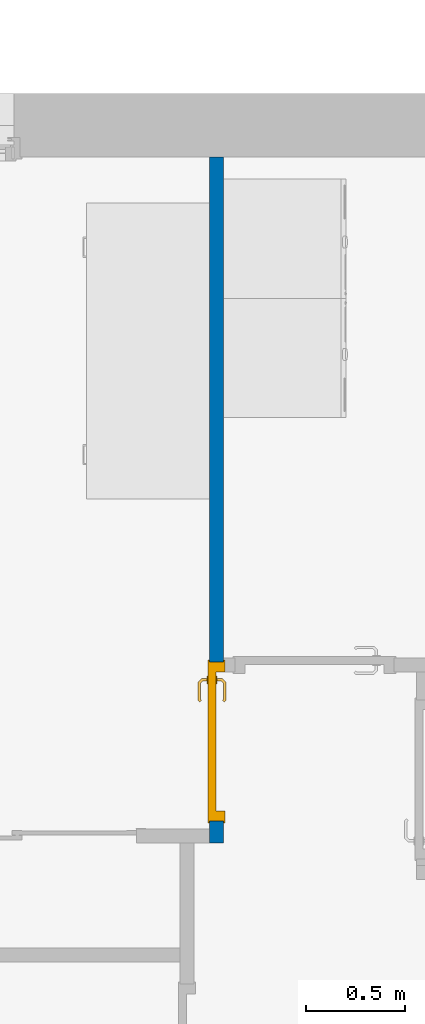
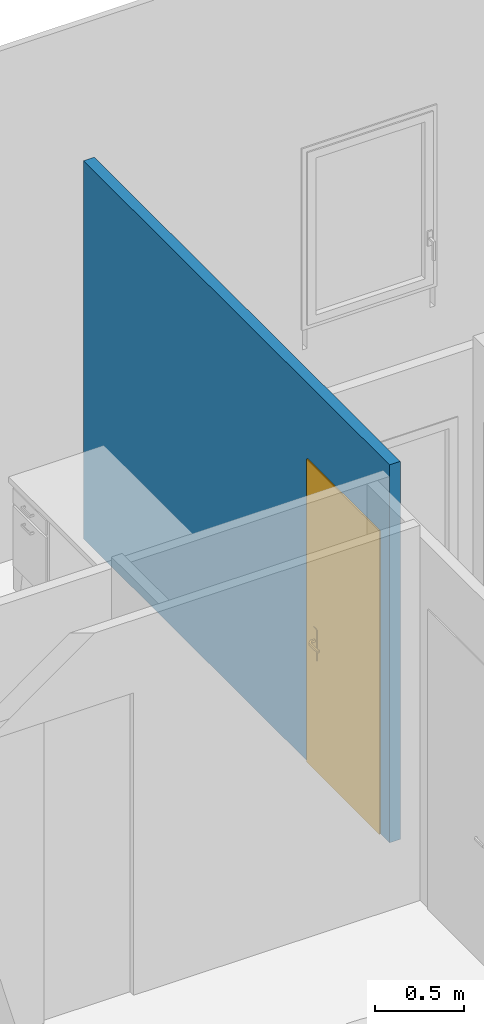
# One storey, part 18 of 61: 1 door, 1 wall, 1 opening.
"""IFC2X3 building model written with IfcOpenShell, lengths in metres."""

from ifc_helpers import new_model, entity, si_unit, converted_unit, derived_unit, direction, frame, frame_2d, origin, place, context, subcontext, project, spatial, rectangle, extrude, faceted_brep, source, transform, mapped, material, material_list, layer, layer_set, layer_usage, type_object, type_shapes, element, fill, save


model = new_model("IFC2X3")

# Units and contexts
model_context = context("Model", 3, precision=1e-05, world=origin(), true_north=direction((6.12303176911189e-17, 1.0)))
body_context = subcontext(model_context, "Body", "Model", "MODEL_VIEW")
ifc_project = project(units=[si_unit("LENGTHUNIT", "METRE"), si_unit("AREAUNIT", "SQUARE_METRE"), si_unit("VOLUMEUNIT", "CUBIC_METRE"), converted_unit("PLANEANGLEUNIT", "DEGREE", entity("IfcRatioMeasure", 0.0174532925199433), si_unit("PLANEANGLEUNIT", "RADIAN"), dimensions=[0, 0, 0, 0, 0, 0, 0]), si_unit("MASSUNIT", "GRAM", prefix="KILO"), derived_unit("MASSDENSITYUNIT", [(si_unit("MASSUNIT", "GRAM", prefix="KILO"), 1), (si_unit("LENGTHUNIT", "METRE"), -3)]), si_unit("TIMEUNIT", "SECOND"), si_unit("FREQUENCYUNIT", "HERTZ"), si_unit("THERMODYNAMICTEMPERATUREUNIT", "DEGREE_CELSIUS"), derived_unit("THERMALTRANSMITTANCEUNIT", [(si_unit("MASSUNIT", "GRAM", prefix="KILO"), 1), (si_unit("THERMODYNAMICTEMPERATUREUNIT", "KELVIN"), -1), (si_unit("TIMEUNIT", "SECOND"), -3)]), derived_unit("VOLUMETRICFLOWRATEUNIT", [(si_unit("LENGTHUNIT", "METRE"), 3), (si_unit("TIMEUNIT", "SECOND"), -1)]), si_unit("ELECTRICCURRENTUNIT", "AMPERE"), si_unit("ELECTRICVOLTAGEUNIT", "VOLT"), si_unit("POWERUNIT", "WATT"), si_unit("FORCEUNIT", "NEWTON", prefix="KILO"), si_unit("ILLUMINANCEUNIT", "LUX"), si_unit("LUMINOUSFLUXUNIT", "LUMEN"), si_unit("LUMINOUSINTENSITYUNIT", "CANDELA"), derived_unit("USERDEFINED", [(si_unit("MASSUNIT", "GRAM", prefix="KILO"), -1), (si_unit("LENGTHUNIT", "METRE"), -2), (si_unit("TIMEUNIT", "SECOND"), 3), (si_unit("LUMINOUSFLUXUNIT", "LUMEN"), 1)]), derived_unit("LINEARVELOCITYUNIT", [(si_unit("LENGTHUNIT", "METRE"), 1), (si_unit("TIMEUNIT", "SECOND"), -1)]), si_unit("PRESSUREUNIT", "PASCAL"), derived_unit("USERDEFINED", [(si_unit("LENGTHUNIT", "METRE"), -2), (si_unit("MASSUNIT", "GRAM", prefix="KILO"), 1), (si_unit("TIMEUNIT", "SECOND"), -2)])], contexts=[model_context])

# Site, building, storey
site_placement = place(None, origin())
site = spatial("IfcSite", under=ifc_project, at=site_placement, Name="Surface", CompositionType="ELEMENT")
building_placement = place(site_placement, origin())
building = spatial("IfcBuilding", under=site, at=building_placement, CompositionType="ELEMENT")
storey_placement = place(building_placement, frame((0.0, 0.0, 2.82)))
storey = spatial("IfcBuildingStorey", under=building, at=storey_placement, Name="ETAGE", CompositionType="ELEMENT", Elevation=2.82)

# Wall, opening, door
ifc_material_1 = material(Name="Peinture - Blanc")
ifc_layer = layer(ifc_material_1, 0.07)
ifc_layer_set = layer_set([ifc_layer], Name="Mur de base:Int.  Platre 70 mm en blanc")
ifc_layer_usage = layer_usage(ifc_layer_set, "AXIS2", "POSITIVE", -0.035)
wall_type = type_object("IfcWallType", Name="Mur de base:Int.  Platre 70 mm en blanc", PredefinedType="STANDARD", material=ifc_layer_set)
wall_placement = place(storey_placement, frame((65.027509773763, 88.1077566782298, 0.0), z_axis=(0.0, 0.0, 1.0), x_axis=(0.0, -1.0, 0.0)))
wall = element("IfcWallStandardCase", 1, at=wall_placement, inside=storey, type_object=wall_type, material=ifc_layer_usage, Name="Mur de base:Int.  Platre 70 mm en blanc", ObjectType="Mur de base:Int.  Platre 70 mm en blanc", context=body_context, shape_type="SweptSolid", body=[
    extrude(rectangle(XDim=3.45000000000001, YDim=0.0700000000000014, at=frame_2d((1.72500000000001, 1.63757896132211e-15), x_axis=(-1.0, 0.0))), origin(), (0.0, 0.0, 1.0), 2.6),
])
opening_placement = place(wall_placement, frame((3.34000000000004, 0.0350000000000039, 0.0)))
opening = element("IfcOpeningElement", 2, at=opening_placement, cuts=wall, Name="FR_Simple (R):73 x 204 - (70):1", ObjectType="Opening", context=body_context, shape_type="SweptSolid", body=[
    extrude(rectangle(XDim=2.075, YDim=0.799999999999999, at=frame_2d((1.0375, 0.400000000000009), x_axis=(1.0, 0.0))), frame((0.0, 0.0, 0.0), z_axis=(0.0, -1.0, 0.0), x_axis=(0.0, 0.0, 1.0)), (0.0, 0.0, 1.0), 0.07),
])
ifc_material_2 = material(Name="Poignée Porte")
ifc_material_3 = material(Name="Dormants Portes")
ifc_material_4 = material(Name="Panneaux Portes")
ifc_material_list_1 = material_list([ifc_material_2, ifc_material_3, ifc_material_4])
ifc_material_list_2 = material_list([ifc_material_2, ifc_material_3, ifc_material_4])
door_style = type_object("IfcDoorStyle", Name="73 x 204 - (70)", ConstructionType="NOTDEFINED", OperationType="SINGLE_SWING_LEFT", ParameterTakesPrecedence=False, Sizeable=False, material=ifc_material_list_2)
shared_shape = source(origin(), body_context, "Body", "Brep", [
    faceted_brep([(0.100352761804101, -0.0130000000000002, 0.766003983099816), (0.11, -0.0130000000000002, 0.770000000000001), (0.11, -0.0130000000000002, 0.980000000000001), (0.100352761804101, -0.0130000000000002, 0.983996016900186), (0.0900000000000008, -0.0130000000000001, 0.985358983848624), (0.0796472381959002, -0.0130000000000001, 0.983996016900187), (0.0700000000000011, -0.0130000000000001, 0.980000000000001), (0.0700000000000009, -0.0130000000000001, 0.770000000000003), (0.0796472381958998, -0.0130000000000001, 0.766003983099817), (0.0900000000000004, -0.0130000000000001, 0.764641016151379), (0.100352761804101, -0.00800000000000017, 0.983996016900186), (0.11, -0.00800000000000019, 0.980000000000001), (0.11, -0.00800000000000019, 0.770000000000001), (0.100352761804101, -0.00800000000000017, 0.766003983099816), (0.0900000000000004, -0.00800000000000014, 0.764641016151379), (0.0796472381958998, -0.0080000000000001, 0.766003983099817), (0.0700000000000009, -0.00800000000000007, 0.770000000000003), (0.0700000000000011, -0.00800000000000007, 0.980000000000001), (0.0796472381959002, -0.0080000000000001, 0.983996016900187), (0.0900000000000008, -0.00800000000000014, 0.985358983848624)], [[[0, 1, 2, 3, 4, 5, 6, 7, 8, 9]], [[10, 11, 12, 13, 14, 15, 16, 17, 18, 19]], [[16, 15, 8, 7]], [[8, 15, 14, 9]], [[14, 13, 0, 9]], [[13, 12, 1, 0]], [[2, 1, 12, 11]], [[11, 10, 3, 2]], [[3, 10, 19, 4]], [[19, 18, 5, 4]], [[18, 17, 6, 5]], [[7, 6, 17, 16]]]),
    faceted_brep([(0.100352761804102, 0.0319999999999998, 0.766003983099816), (0.110000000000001, 0.0319999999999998, 0.770000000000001), (0.11, 0.0319999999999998, 0.980000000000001), (0.100352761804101, 0.0319999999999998, 0.983996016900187), (0.0900000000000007, 0.0319999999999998, 0.985358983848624), (0.0796472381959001, 0.0319999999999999, 0.983996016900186), (0.0700000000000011, 0.0319999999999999, 0.980000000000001), (0.0700000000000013, 0.0319999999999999, 0.770000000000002), (0.0796472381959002, 0.0319999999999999, 0.766003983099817), (0.0900000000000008, 0.0319999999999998, 0.764641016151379), (0.100352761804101, 0.0369999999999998, 0.983996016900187), (0.11, 0.0369999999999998, 0.980000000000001), (0.110000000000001, 0.0369999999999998, 0.770000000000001), (0.100352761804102, 0.0369999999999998, 0.766003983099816), (0.0900000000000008, 0.0369999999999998, 0.764641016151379), (0.0796472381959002, 0.0369999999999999, 0.766003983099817), (0.0700000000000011, 0.0369999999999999, 0.770000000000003), (0.0700000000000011, 0.0369999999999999, 0.980000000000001), (0.0796472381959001, 0.0369999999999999, 0.983996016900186), (0.0900000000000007, 0.0369999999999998, 0.985358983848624)], [[[0, 1, 2, 3, 4, 5, 6, 7, 8, 9]], [[10, 11, 12, 13, 14, 15, 16, 17, 18, 19]], [[11, 10, 3, 2]], [[3, 10, 19, 4]], [[19, 18, 5, 4]], [[18, 17, 6, 5]], [[7, 6, 17, 16]], [[16, 15, 8, 7]], [[8, 15, 14, 9]], [[14, 13, 0, 9]], [[13, 12, 1, 0]], [[2, 1, 12, 11]]]),
    faceted_brep([(0.0879747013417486, -0.0130000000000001, 0.907780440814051), (0.0920252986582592, -0.0130000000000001, 0.907780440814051), (0.0960000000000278, -0.0130000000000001, 0.906999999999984), (0.0960000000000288, -0.0130000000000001, 0.893000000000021), (0.0920252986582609, -0.0130000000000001, 0.89221955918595), (0.0879747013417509, -0.0130000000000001, 0.892219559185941), (0.0839999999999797, -0.0130000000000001, 0.892999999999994), (0.0839999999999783, -0.0130000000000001, 0.90699999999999), (0.083999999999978, -0.0406509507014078, 0.906999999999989), (0.0879747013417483, -0.0390045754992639, 0.907780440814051), (0.104023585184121, -0.0550534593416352, 0.907780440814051), (0.105701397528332, -0.0510028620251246, 0.907780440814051), (0.0920252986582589, -0.0373267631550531, 0.907780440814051), (0.198521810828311, -0.0473891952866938, 0.90778044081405), (0.195657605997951, -0.0445249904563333, 0.90778044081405), (0.18917973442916, -0.0510028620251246, 0.90778044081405), (0.190857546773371, -0.0550534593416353, 0.90778044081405), (0.0960000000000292, -0.0356803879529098, 0.90699999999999), (0.0960000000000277, -0.0356803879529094, 0.893000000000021), (0.0920252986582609, -0.0373267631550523, 0.89221955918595), (0.105701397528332, -0.0510028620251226, 0.89221955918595), (0.104023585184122, -0.0550534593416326, 0.89221955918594), (0.0879747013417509, -0.0390045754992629, 0.89221955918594), (0.195657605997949, -0.044524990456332, 0.89221955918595), (0.19852181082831, -0.0473891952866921, 0.89221955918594), (0.19085754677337, -0.0550534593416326, 0.89221955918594), (0.18917973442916, -0.0510028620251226, 0.89221955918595), (0.0839999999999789, -0.0406509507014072, 0.892999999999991), (0.102377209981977, -0.0590281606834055, 0.906999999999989), (0.107347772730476, -0.0470281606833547, 0.90699999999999), (0.107347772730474, -0.0470281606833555, 0.893000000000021), (0.102377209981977, -0.0590281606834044, 0.892999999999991), (0.142307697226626, -0.0590281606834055, 0.906999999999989), (0.147440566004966, -0.053182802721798, 0.907878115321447), (0.192503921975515, -0.0590281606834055, 0.906999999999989), (0.147440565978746, -0.0470281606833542, 0.90699999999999), (0.187533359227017, -0.0470281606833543, 0.906999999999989), (0.187533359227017, -0.0470281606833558, 0.89300000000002), (0.147440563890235, -0.0470281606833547, 0.893000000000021), (0.147440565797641, -0.0531828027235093, 0.892121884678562), (0.192503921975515, -0.0590281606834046, 0.892999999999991), (0.152573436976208, -0.0590281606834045, 0.892999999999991), (0.192847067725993, -0.0417144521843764, 0.906999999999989), (0.201332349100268, -0.0501997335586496, 0.906999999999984), (0.201332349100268, -0.05019973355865, 0.892999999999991), (0.192847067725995, -0.0417144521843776, 0.893000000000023)], [[[0, 1, 2, 3, 4, 5, 6, 7]], [[8, 9, 0, 7]], [[9, 10, 11, 12, 1, 0]], [[13, 14, 15, 16]], [[12, 17, 2, 1]], [[3, 2, 17, 18]], [[18, 19, 4, 3]], [[19, 20, 21, 22, 5, 4]], [[23, 24, 25, 26]], [[22, 27, 6, 5]], [[7, 6, 27, 8]], [[28, 10, 9, 8]], [[11, 29, 17, 12]], [[18, 17, 29, 30]], [[30, 20, 19, 18]], [[21, 31, 27, 22]], [[8, 27, 31, 28]], [[32, 33, 10]], [[33, 32, 16]], [[10, 28, 32]], [[34, 16, 32]], [[33, 35, 11]], [[11, 10, 33]], [[15, 35, 33]], [[29, 11, 35]], [[35, 15, 36]], [[15, 33, 16]], [[30, 29, 35, 36, 37, 38]], [[20, 38, 39]], [[25, 40, 41]], [[31, 21, 41]], [[41, 21, 39]], [[39, 38, 26]], [[26, 25, 39]], [[38, 20, 30]], [[37, 26, 38]], [[20, 39, 21]], [[41, 39, 25]], [[28, 31, 41, 40, 34, 32]], [[42, 14, 13, 43, 44, 24, 23, 45]], [[43, 13, 16, 34]], [[14, 42, 36, 15]], [[37, 36, 42, 45]], [[45, 23, 26, 37]], [[24, 44, 40, 25]], [[34, 40, 44, 43]]]),
    faceted_brep([(0.0879747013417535, 0.0369999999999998, 0.892219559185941), (0.092025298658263, 0.0369999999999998, 0.892219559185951), (0.0960000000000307, 0.0369999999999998, 0.893000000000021), (0.096000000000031, 0.0369999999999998, 0.90699999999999), (0.0920252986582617, 0.0369999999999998, 0.907780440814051), (0.0879747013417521, 0.0369999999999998, 0.907780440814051), (0.0839999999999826, 0.0369999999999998, 0.90699999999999), (0.0839999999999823, 0.0369999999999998, 0.892999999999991), (0.0960000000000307, 0.0594852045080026, 0.893000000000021), (0.0960000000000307, 0.0594852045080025, 0.90699999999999), (0.092025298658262, 0.0611315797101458, 0.907780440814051), (0.105838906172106, 0.0749451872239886, 0.907780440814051), (0.104161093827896, 0.0789957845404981, 0.907780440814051), (0.0879747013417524, 0.0628093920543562, 0.907780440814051), (0.195684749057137, 0.0684673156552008, 0.907780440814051), (0.198548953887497, 0.071331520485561, 0.907780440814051), (0.190884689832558, 0.0789957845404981, 0.907780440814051), (0.189206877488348, 0.0749451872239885, 0.907780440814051), (0.0839999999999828, 0.0644557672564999, 0.90699999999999), (0.0839999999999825, 0.0644557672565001, 0.892999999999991), (0.0879747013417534, 0.0628093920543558, 0.892219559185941), (0.104161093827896, 0.0789957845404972, 0.892219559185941), (0.105838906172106, 0.0749451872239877, 0.892219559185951), (0.0920252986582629, 0.0611315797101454, 0.892219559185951), (0.198548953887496, 0.07133152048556, 0.89221955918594), (0.195684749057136, 0.0684673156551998, 0.89221955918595), (0.189206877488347, 0.0749451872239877, 0.89221955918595), (0.190884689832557, 0.0789957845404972, 0.89221955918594), (0.107485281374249, 0.0709704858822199, 0.893000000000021), (0.107485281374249, 0.0709704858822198, 0.90699999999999), (0.102514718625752, 0.0829704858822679, 0.90699999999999), (0.102514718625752, 0.0829704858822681, 0.892999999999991), (0.147522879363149, 0.0709704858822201, 0.89300000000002), (0.187560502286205, 0.0709704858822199, 0.89300000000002), (0.187560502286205, 0.0709704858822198, 0.90699999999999), (0.147522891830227, 0.0709704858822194, 0.90699999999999), (0.147522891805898, 0.0771249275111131, 0.907878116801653), (0.192531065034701, 0.0829704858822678, 0.90699999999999), (0.152600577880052, 0.0829704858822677, 0.90699999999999), (0.192531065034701, 0.082970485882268, 0.892999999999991), (0.142445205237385, 0.0829704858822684, 0.892999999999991), (0.147522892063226, 0.0771249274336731, 0.892121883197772), (0.192874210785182, 0.0656567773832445, 0.89300000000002), (0.201359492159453, 0.0741420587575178, 0.892999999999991), (0.201359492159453, 0.0741420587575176, 0.90699999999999), (0.192874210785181, 0.0656567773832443, 0.90699999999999)], [[[0, 1, 2, 3, 4, 5, 6, 7]], [[3, 2, 8, 9]], [[9, 10, 4, 3]], [[10, 11, 12, 13, 5, 4]], [[14, 15, 16, 17]], [[13, 18, 6, 5]], [[7, 6, 18, 19]], [[19, 20, 0, 7]], [[20, 21, 22, 23, 1, 0]], [[24, 25, 26, 27]], [[23, 8, 2, 1]], [[9, 8, 28, 29]], [[29, 11, 10, 9]], [[12, 30, 18, 13]], [[19, 18, 30, 31]], [[31, 21, 20, 19]], [[22, 28, 8, 23]], [[28, 32, 33, 34, 35, 29]], [[11, 35, 36]], [[16, 37, 38]], [[30, 12, 38]], [[38, 12, 36]], [[36, 35, 17]], [[17, 16, 36]], [[35, 11, 29]], [[34, 17, 35]], [[11, 36, 12]], [[38, 36, 16]], [[31, 30, 38, 37, 39, 40]], [[40, 41, 21]], [[41, 40, 27]], [[21, 31, 40]], [[39, 27, 40]], [[41, 32, 22]], [[22, 21, 41]], [[26, 32, 41]], [[28, 22, 32]], [[32, 26, 33]], [[26, 41, 27]], [[42, 25, 24, 43, 44, 15, 14, 45]], [[34, 33, 42, 45]], [[45, 14, 17, 34]], [[15, 44, 37, 16]], [[39, 37, 44, 43]], [[43, 24, 27, 39]], [[25, 42, 33, 26]]]),
    faceted_brep([(0.0, 0.0, 0.0), (0.0, 0.0700000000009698, 0.0), (-0.00999999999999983, 0.0700000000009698, 0.0), (-0.00999999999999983, 0.0780000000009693, 0.0), (0.0499999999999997, 0.0780000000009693, 0.0), (0.0499999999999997, 0.032, 0.0), (0.0350000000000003, 0.032, 0.0), (0.0350000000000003, -0.00799999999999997, 0.0), (-0.00999999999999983, -0.00799999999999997, 0.0), (-0.00999999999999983, 0.0, 0.0), (0.0, 0.0, 2.075), (0.0, 0.0700000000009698, 2.075), (0.799999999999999, 0.0700000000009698, 2.075), (0.799999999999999, 0.0700000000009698, 0.0), (0.809999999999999, 0.0700000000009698, 0.0), (0.809999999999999, 0.0700000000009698, 2.085), (-0.00999999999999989, 0.0700000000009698, 2.085), (-0.00999999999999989, 0.0780000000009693, 2.085), (0.809999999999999, 0.0780000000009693, 2.085), (0.809999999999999, 0.0780000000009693, 0.0), (0.75, 0.0780000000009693, 0.0), (0.75, 0.0780000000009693, 2.025), (0.0499999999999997, 0.0780000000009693, 2.025), (0.0499999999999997, 0.032, 2.025), (0.75, 0.032, 2.025), (0.75, 0.032, 0.0), (0.764999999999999, 0.032, 0.0), (0.764999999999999, 0.032, 2.04), (0.0350000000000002, 0.032, 2.04), (0.0350000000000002, -0.00799999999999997, 2.04), (0.764999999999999, -0.00799999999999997, 2.04), (0.764999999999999, -0.00799999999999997, 0.0), (0.809999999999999, -0.00799999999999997, 0.0), (0.809999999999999, -0.00799999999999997, 2.085), (-0.00999999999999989, -0.00799999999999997, 2.085), (-0.00999999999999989, 0.0, 2.085), (0.809999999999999, 0.0, 2.085), (0.809999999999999, 0.0, 0.0), (0.799999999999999, 0.0, 0.0), (0.799999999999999, 0.0, 2.075)], [[[0, 1, 2, 3, 4, 5, 6, 7, 8, 9]], [[1, 0, 10, 11]], [[2, 1, 11, 12, 13, 14, 15, 16]], [[3, 2, 16, 17]], [[4, 3, 17, 18, 19, 20, 21, 22]], [[5, 4, 22, 23]], [[6, 5, 23, 24, 25, 26, 27, 28]], [[7, 6, 28, 29]], [[8, 7, 29, 30, 31, 32, 33, 34]], [[9, 8, 34, 35]], [[0, 9, 35, 36, 37, 38, 39, 10]], [[11, 10, 39, 12]], [[17, 16, 15, 18]], [[23, 22, 21, 24]], [[29, 28, 27, 30]], [[35, 34, 33, 36]], [[38, 37, 32, 31, 26, 25, 20, 19, 14, 13]], [[12, 39, 38, 13]], [[18, 15, 14, 19]], [[24, 21, 20, 25]], [[30, 27, 26, 31]], [[36, 33, 32, 37]]]),
    faceted_brep([(0.0350000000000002, -0.00799999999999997, 2.04), (0.0350000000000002, -0.00799999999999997, 0.0), (0.764999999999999, -0.00799999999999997, 0.0), (0.764999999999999, -0.00799999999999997, 2.04), (0.0350000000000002, 0.032, 2.04), (0.764999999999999, 0.032, 2.04), (0.764999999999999, 0.032, 0.0), (0.0350000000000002, 0.032, 0.0)], [[[0, 1, 2, 3]], [[4, 5, 6, 7]], [[1, 0, 4, 7]], [[2, 1, 7, 6]], [[3, 2, 6, 5]], [[0, 3, 5, 4]]]),
])
type_shapes(door_style, [shared_shape])
door_placement = place(opening_placement, frame((-0.800000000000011, -0.0699999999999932, 0.0)))
door = element("IfcDoor", 3, at=door_placement, inside=storey, type_object=door_style, material=ifc_material_list_1, Name="FR_Simple (R):73 x 204 - (70)", ObjectType="FR_Simple (R):73 x 204 - (70)", OverallHeight=2.075, OverallWidth=0.800000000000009, context=body_context, shape_type="MappedRepresentation", body=[
    mapped(shared_shape, transform((0.0, 0.0, 0.0), scale=1.0)),
])
fill(opening, door)

save(model, "model.ifc")
